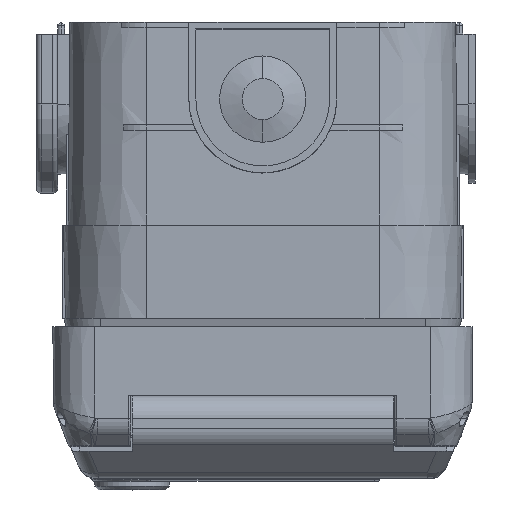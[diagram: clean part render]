
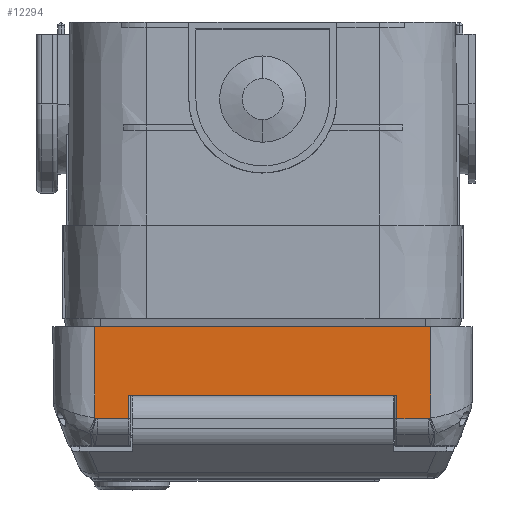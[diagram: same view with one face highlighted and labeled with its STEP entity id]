
A CAD part, top view. The second image highlights one B-rep face of the part: STEP entity #12294.
In plain terms, the highlighted planar face has unit normal (0, -0.009, 1).
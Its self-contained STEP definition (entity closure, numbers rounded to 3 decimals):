
#1358=DIRECTION('',(0.,-1.,-0.009));
#1359=VECTOR('',#1358,19.588);
#1360=CARTESIAN_POINT('',(-36.,-1.8,46.5));
#1361=LINE('1097',#1360,#1359);
#1830=DIRECTION('',(1.,0.,0.));
#1831=VECTOR('',#1830,57.5);
#1832=CARTESIAN_POINT('',(-28.75,-16.5,46.372));
#1833=LINE('1198',#1832,#1831);
#2663=DIRECTION('',(-1.,0.,0.));
#2664=VECTOR('',#2663,6.76);
#2665=CARTESIAN_POINT('',(35.51,-21.515,46.328));
#2666=LINE('1182',#2665,#2664);
#2691=DIRECTION('',(0.,-1.,-0.009));
#2692=VECTOR('',#2691,5.015);
#2693=CARTESIAN_POINT('',(28.75,-16.5,46.372));
#2694=LINE('1178',#2693,#2692);
#2707=DIRECTION('',(1.,0.,0.));
#2708=VECTOR('',#2707,72.);
#2709=CARTESIAN_POINT('',(-36.,-1.8,46.5));
#2710=LINE('1050',#2709,#2708);
#2711=DIRECTION('',(0.,1.,0.009));
#2712=VECTOR('',#2711,5.015);
#2713=CARTESIAN_POINT('',(-28.75,-21.515,46.328));
#2714=LINE('1171',#2713,#2712);
#2751=DIRECTION('',(-1.,0.,0.));
#2752=VECTOR('',#2751,6.76);
#2753=CARTESIAN_POINT('',(-28.75,-21.515,46.328));
#2754=LINE('1183',#2753,#2752);
#3345=CARTESIAN_POINT('',(36.,-21.388,46.329));
#3392=CARTESIAN_POINT('',(36.,-21.388,46.329));
#3393=CARTESIAN_POINT('',(35.982,-21.395,46.329));
#3394=CARTESIAN_POINT('',(35.946,-21.408,46.329));
#3395=CARTESIAN_POINT('',(35.892,-21.428,46.329));
#3396=CARTESIAN_POINT('',(35.856,-21.44,46.329));
#3397=CARTESIAN_POINT('',(35.838,-21.446,46.329));
#3411=CARTESIAN_POINT('',(35.838,-21.446,46.329));
#3412=CARTESIAN_POINT('',(35.824,-21.451,46.329));
#3413=CARTESIAN_POINT('',(35.795,-21.46,46.328));
#3414=CARTESIAN_POINT('',(35.75,-21.474,46.328));
#3415=CARTESIAN_POINT('',(35.721,-21.482,46.328));
#3416=CARTESIAN_POINT('',(35.706,-21.487,46.328));
#3449=CARTESIAN_POINT('',(35.706,-21.487,46.328));
#3450=CARTESIAN_POINT('',(35.685,-21.493,46.328));
#3451=CARTESIAN_POINT('',(35.642,-21.503,46.328));
#3452=CARTESIAN_POINT('',(35.577,-21.512,46.328));
#3453=CARTESIAN_POINT('',(35.532,-21.515,46.328));
#3454=CARTESIAN_POINT('',(35.51,-21.515,46.328));
#3461=DIRECTION('',(0.,1.,0.009));
#3462=VECTOR('',#3461,19.588);
#3463=CARTESIAN_POINT('',(36.,-21.388,46.329));
#3464=LINE('1096',#3463,#3462);
#3603=CARTESIAN_POINT('',(-35.838,-21.446,
46.329));
#3604=CARTESIAN_POINT('',(-35.856,-21.44,
46.329));
#3605=CARTESIAN_POINT('',(-35.892,-21.428,
46.329));
#3606=CARTESIAN_POINT('',(-35.946,-21.408,
46.329));
#3607=CARTESIAN_POINT('',(-35.982,-21.395,
46.329));
#3608=CARTESIAN_POINT('',(-36.,-21.388,
46.329));
#3622=CARTESIAN_POINT('',(-35.706,-21.487,
46.328));
#3623=CARTESIAN_POINT('',(-35.721,-21.482,
46.328));
#3624=CARTESIAN_POINT('',(-35.75,-21.474,
46.328));
#3625=CARTESIAN_POINT('',(-35.795,-21.46,
46.328));
#3626=CARTESIAN_POINT('',(-35.824,-21.451,
46.329));
#3627=CARTESIAN_POINT('',(-35.838,-21.446,
46.329));
#3660=CARTESIAN_POINT('',(-35.51,-21.515,
46.328));
#3661=CARTESIAN_POINT('',(-35.532,-21.515,
46.328));
#3662=CARTESIAN_POINT('',(-35.577,-21.512,
46.328));
#3663=CARTESIAN_POINT('',(-35.642,-21.503,
46.328));
#3664=CARTESIAN_POINT('',(-35.685,-21.493,
46.328));
#3665=CARTESIAN_POINT('',(-35.706,-21.487,
46.328));
#6830=CARTESIAN_POINT('',(-36.,-1.8,46.5));
#6831=CARTESIAN_POINT('',(36.,-1.8,46.5));
#6832=VERTEX_POINT('',#6830);
#6833=VERTEX_POINT('',#6831);
#6858=VERTEX_POINT('',#3345);
#6861=VERTEX_POINT('',#3397);
#6863=VERTEX_POINT('',#3416);
#6865=VERTEX_POINT('',#3454);
#6868=VERTEX_POINT('',#3660);
#6869=VERTEX_POINT('',#3665);
#6871=VERTEX_POINT('',#3627);
#6873=VERTEX_POINT('',#3608);
#6942=CARTESIAN_POINT('',(-28.75,-21.515,46.328));
#6943=VERTEX_POINT('',#6942);
#6946=CARTESIAN_POINT('',(-28.75,-16.5,46.372));
#6947=VERTEX_POINT('',#6946);
#6960=CARTESIAN_POINT('',(28.75,-21.515,46.328));
#6961=VERTEX_POINT('',#6960);
#6964=CARTESIAN_POINT('',(28.75,-16.5,46.372));
#6965=VERTEX_POINT('',#6964);
#12264=CARTESIAN_POINT('',(-36.,-1.8,46.5));
#12265=DIRECTION('',(0.,-0.009,1.));
#12266=DIRECTION('',(0.,-1.,-0.009));
#12267=AXIS2_PLACEMENT_3D('',#12264,#12265,#12266);
#12268=PLANE('211',#12267);
#12270=ORIENTED_EDGE('1171',*,*,#12269,.F.);
#12272=ORIENTED_EDGE('1183',*,*,#12271,.T.);
#12274=ORIENTED_EDGE('1072',*,*,#12273,.T.);
#12276=ORIENTED_EDGE('1074',*,*,#12275,.T.);
#12278=ORIENTED_EDGE('1076',*,*,#12277,.T.);
#12279=ORIENTED_EDGE('1097',*,*,#9561,.F.);
#12280=ORIENTED_EDGE('1050',*,*,#9515,.T.);
#12282=ORIENTED_EDGE('1096',*,*,#12281,.F.);
#12284=ORIENTED_EDGE('1066',*,*,#12283,.T.);
#12286=ORIENTED_EDGE('1068',*,*,#12285,.T.);
#12288=ORIENTED_EDGE('1070',*,*,#12287,.T.);
#12289=ORIENTED_EDGE('1182',*,*,#12194,.T.);
#12290=ORIENTED_EDGE('1178',*,*,#12244,.F.);
#12291=ORIENTED_EDGE('1198',*,*,#10332,.F.);
#12292=EDGE_LOOP('211',(#12270,#12272,#12274,#12276,#12278,#12279,#12280,#12282,
#12284,#12286,#12288,#12289,#12290,#12291));
#12293=FACE_OUTER_BOUND('211',#12292,.F.);
#3398=B_SPLINE_CURVE_WITH_KNOTS('1066',3,(#3392,#3393,#3394,#3395,#3396,#3397),
.UNSPECIFIED.,.F.,.F.,(4,1,1,4),(0.,0.333,0.667,1.),
.UNSPECIFIED.);
#3417=B_SPLINE_CURVE_WITH_KNOTS('1068',3,(#3411,#3412,#3413,#3414,#3415,#3416),
.UNSPECIFIED.,.F.,.F.,(4,1,1,4),(0.,0.333,0.667,1.),
.UNSPECIFIED.);
#3455=B_SPLINE_CURVE_WITH_KNOTS('1070',3,(#3449,#3450,#3451,#3452,#3453,#3454),
.UNSPECIFIED.,.F.,.F.,(4,1,1,4),(0.,0.333,0.667,1.),
.UNSPECIFIED.);
#3609=B_SPLINE_CURVE_WITH_KNOTS('1076',3,(#3603,#3604,#3605,#3606,#3607,#3608),
.UNSPECIFIED.,.F.,.F.,(4,1,1,4),(0.,0.333,0.667,1.),
.UNSPECIFIED.);
#3628=B_SPLINE_CURVE_WITH_KNOTS('1074',3,(#3622,#3623,#3624,#3625,#3626,#3627),
.UNSPECIFIED.,.F.,.F.,(4,1,1,4),(0.,0.333,0.667,1.),
.UNSPECIFIED.);
#3666=B_SPLINE_CURVE_WITH_KNOTS('1072',3,(#3660,#3661,#3662,#3663,#3664,#3665),
.UNSPECIFIED.,.F.,.F.,(4,1,1,4),(0.,0.333,0.667,1.),
.UNSPECIFIED.);
#9515=EDGE_CURVE('1050',#6832,#6833,#2710,.T.);
#9561=EDGE_CURVE('1097',#6832,#6873,#1361,.T.);
#10332=EDGE_CURVE('1198',#6947,#6965,#1833,.T.);
#12194=EDGE_CURVE('1182',#6865,#6961,#2666,.T.);
#12244=EDGE_CURVE('1178',#6965,#6961,#2694,.T.);
#12269=EDGE_CURVE('1171',#6943,#6947,#2714,.T.);
#12271=EDGE_CURVE('1183',#6943,#6868,#2754,.T.);
#12273=EDGE_CURVE('1072',#6868,#6869,#3666,.T.);
#12275=EDGE_CURVE('1074',#6869,#6871,#3628,.T.);
#12277=EDGE_CURVE('1076',#6871,#6873,#3609,.T.);
#12281=EDGE_CURVE('1096',#6858,#6833,#3464,.T.);
#12283=EDGE_CURVE('1066',#6858,#6861,#3398,.T.);
#12285=EDGE_CURVE('1068',#6861,#6863,#3417,.T.);
#12287=EDGE_CURVE('1070',#6863,#6865,#3455,.T.);
#12294=ADVANCED_FACE('211',(#12293),#12268,.T.);
